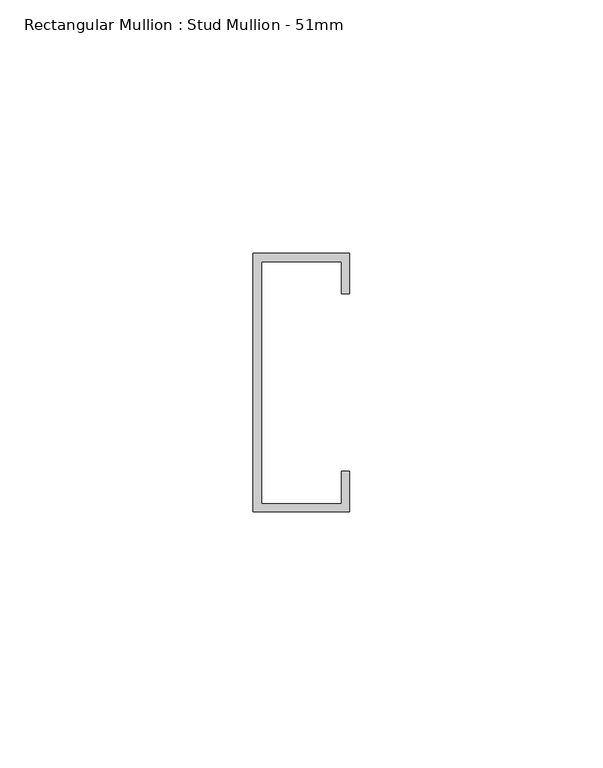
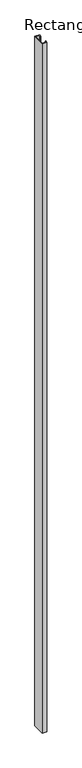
"""IFC4 building model written with IfcOpenShell, lengths in millimetres: member geometry, Rectangular Mullion : Stud Mullion - 51mm."""

from ifc_helpers import new_model, si_unit, frame, origin, place, context, project, spatial, polyline, outline, extrude, source, transform, mapped, element, save


def rectangular_mullion_stud_mullion_51mm_d47c2d60(model_context):
    return source(origin(), model_context, "Body", "SweptSolid", [
        extrude(outline(polyline([(0.0, 17.5), (-1.6, 17.5), (-1.6, 23.9), (-17.4, 23.9), (-17.4, -23.9), (-1.6, -23.9), (-1.6, -17.5), (0.0, -17.5), (0.0, -25.5), (-19.0, -25.5), (-19.0, 25.5), (0.0, 25.5), (0.0, 17.5)])), frame((0.0, 0.0, -3000.0), z_axis=(0.0, 0.0, 1.0), x_axis=(1.0, 0.0, 0.0)), (0.0, 0.0, 1.0), 3000.0),
    ])


if __name__ == "__main__":
    model = new_model("IFC4")
    model_context = context("Model", 3, world=origin())
    ifc_project = project(units=[si_unit("LENGTHUNIT", "METRE", prefix="MILLI")], contexts=[model_context])
    site = spatial("IfcSite", under=ifc_project)
    building = spatial("IfcBuilding", under=site)
    placement = place(None, origin())
    rectangular_mullion_stud_mullion_51mm_shape = rectangular_mullion_stud_mullion_51mm_d47c2d60(model_context)
    element("IfcMember", 1, ObjectType="Rectangular Mullion : Stud Mullion - 51mm", at=placement, inside=building, context=model_context, shape_type="MappedRepresentation", body=[
        mapped(rectangular_mullion_stud_mullion_51mm_shape, transform((0.0, 0.0, 0.0), x_axis=(1.0, 0.0, 0.0), y_axis=(0.0, 1.0, 0.0), z_axis=(0.0, 0.0, 1.0))),
    ])
    save(model, "model.ifc")
